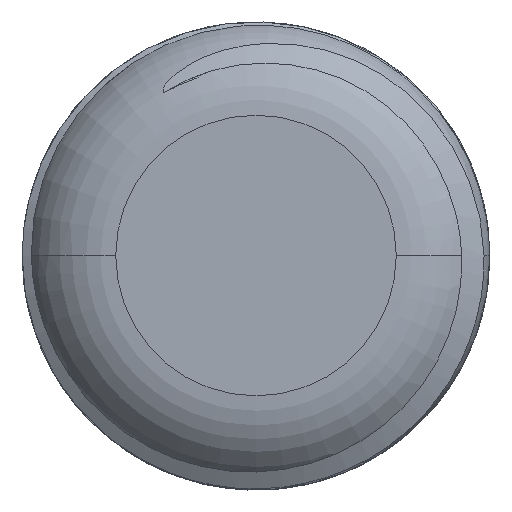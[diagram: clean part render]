
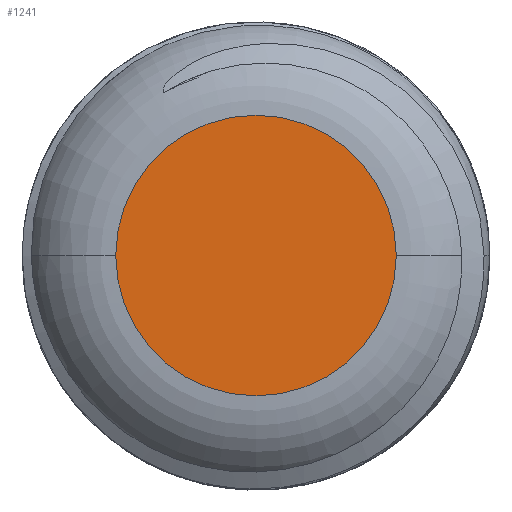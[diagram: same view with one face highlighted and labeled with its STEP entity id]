
A CAD part, top view. The second image highlights one B-rep face of the part: STEP entity #1241.
In plain terms, the highlighted planar face has unit normal (0, 0, 1).
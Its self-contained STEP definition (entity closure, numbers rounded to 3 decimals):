
#97 = ORIENTED_EDGE ( 'NONE', *, *, #829, .T. ) ;
#115 = CARTESIAN_POINT ( 'NONE',  ( -1.5, 0., 6. ) ) ;
#146 = VERTEX_POINT ( 'NONE', #1472 ) ;
#258 = DIRECTION ( 'NONE',  ( 1., 0., 0. ) ) ;
#287 = CIRCLE ( 'NONE', #1349, 1.5 ) ;
#434 = AXIS2_PLACEMENT_3D ( 'NONE', #1728, #760, #572 ) ;
#457 = DIRECTION ( 'NONE',  ( 0., 0., 1. ) ) ;
#572 = DIRECTION ( 'NONE',  ( 1., 0., 0. ) ) ;
#663 = ORIENTED_EDGE ( 'NONE', *, *, #1128, .T. ) ;
#760 = DIRECTION ( 'NONE',  ( 0., 0., 1. ) ) ;
#829 = EDGE_CURVE ( 'NONE', #146, #1692, #1084, .T. ) ;
#1041 = DIRECTION ( 'NONE',  ( 1., 0., 0. ) ) ;
#1084 = CIRCLE ( 'NONE', #434, 1.5 ) ;
#1128 = EDGE_CURVE ( 'NONE', #1692, #146, #287, .T. ) ;
#1221 = CARTESIAN_POINT ( 'NONE',  ( 0., 0., 6. ) ) ;
#1230 = DIRECTION ( 'NONE',  ( 0., 0., 1. ) ) ;
#1241 = ADVANCED_FACE ( 'NONE', ( #1645 ), #1620, .T. ) ;
#1349 = AXIS2_PLACEMENT_3D ( 'NONE', #1221, #457, #258 ) ;
#1428 = CARTESIAN_POINT ( 'NONE',  ( 0., 0., 6. ) ) ;
#1472 = CARTESIAN_POINT ( 'NONE',  ( 1.5, 0., 6. ) ) ;
#1620 = PLANE ( 'NONE',  #1794 ) ;
#1645 = FACE_OUTER_BOUND ( 'NONE', #1731, .T. ) ;
#1692 = VERTEX_POINT ( 'NONE', #115 ) ;
#1728 = CARTESIAN_POINT ( 'NONE',  ( 0., 0., 6. ) ) ;
#1731 = EDGE_LOOP ( 'NONE', ( #97, #663 ) ) ;
#1794 = AXIS2_PLACEMENT_3D ( 'NONE', #1428, #1230, #1041 ) ;
